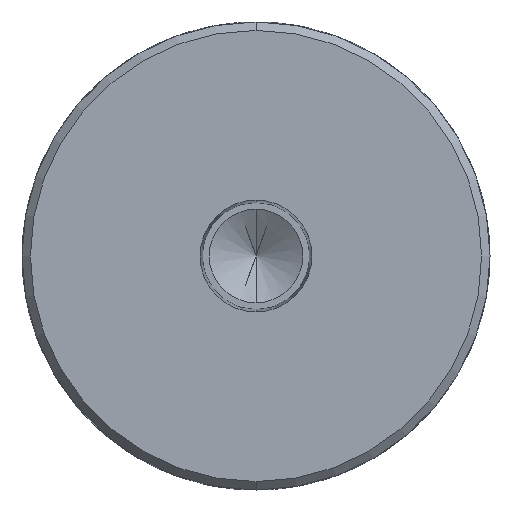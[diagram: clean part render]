
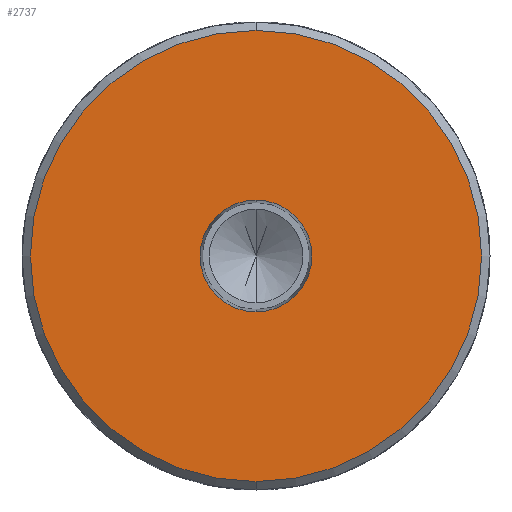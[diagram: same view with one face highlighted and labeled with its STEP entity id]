
A CAD part, front view. The second image highlights one B-rep face of the part: STEP entity #2737.
In plain terms, the highlighted planar face has unit normal (0, -1, 0).
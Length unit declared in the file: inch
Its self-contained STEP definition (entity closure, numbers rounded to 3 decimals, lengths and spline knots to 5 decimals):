
#1234 = FACE_BOUND ( 'NONE', #2789, .T. ) ;
#1239 = FACE_OUTER_BOUND ( 'NONE', #2741, .T. ) ;
#1271 = DIRECTION ( 'NONE',  ( 0., 0., 1. ) ) ;
#1272 = DIRECTION ( 'NONE',  ( 0., -1., 0. ) ) ;
#1273 = CARTESIAN_POINT ( 'NONE',  ( 0., 0., 0. ) ) ;
#1274 = AXIS2_PLACEMENT_3D ( 'NONE', #1273, #1272, #1271 ) ;
#1275 = CIRCLE ( 'NONE', #1274, 1.663 ) ;
#1276 = DIRECTION ( 'NONE',  ( 0., 0., -1. ) ) ;
#1277 = DIRECTION ( 'NONE',  ( 0., -1., 0. ) ) ;
#1278 = CARTESIAN_POINT ( 'NONE',  ( 0., 0., 0. ) ) ;
#1279 = AXIS2_PLACEMENT_3D ( 'NONE', #1278, #1277, #1276 ) ;
#1280 = CIRCLE ( 'NONE', #1279, 0.41248 ) ;
#1299 = DIRECTION ( 'NONE',  ( 0., 0., 1. ) ) ;
#1300 = DIRECTION ( 'NONE',  ( 0., 1., 0. ) ) ;
#1301 = CARTESIAN_POINT ( 'NONE',  ( 0., 0., 0. ) ) ;
#1302 = AXIS2_PLACEMENT_3D ( 'NONE', #1301, #1300, #1299 ) ;
#1303 = PLANE ( 'NONE',  #1302 ) ;
#2737 = ADVANCED_FACE ( 'NONE', ( #1234, #1239 ), #1303, .F. ) ;
#2738 = ORIENTED_EDGE ( 'NONE', *, *, #2739, .F. ) ;
#2739 = EDGE_CURVE ( 'NONE', #3918, #3915, #1280, .T. ) ;
#2740 = ORIENTED_EDGE ( 'NONE', *, *, #3917, .F. ) ;
#2741 = EDGE_LOOP ( 'NONE', ( #2742, #2744 ) ) ;
#2742 = ORIENTED_EDGE ( 'NONE', *, *, #2743, .T. ) ;
#2743 = EDGE_CURVE ( 'NONE', #4156, #4155, #1275, .T. ) ;
#2744 = ORIENTED_EDGE ( 'NONE', *, *, #4154, .T. ) ;
#2789 = EDGE_LOOP ( 'NONE', ( #2738, #2740 ) ) ;
#2954 = CARTESIAN_POINT ( 'NONE',  ( 0., 0., -0.41248 ) ) ;
#2955 = DIRECTION ( 'NONE',  ( 0., 0., -1. ) ) ;
#2956 = DIRECTION ( 'NONE',  ( 0., -1., 0. ) ) ;
#2957 = CARTESIAN_POINT ( 'NONE',  ( 0., 0., 0. ) ) ;
#2958 = AXIS2_PLACEMENT_3D ( 'NONE', #2957, #2956, #2955 ) ;
#2959 = CIRCLE ( 'NONE', #2958, 0.41248 ) ;
#2960 = CARTESIAN_POINT ( 'NONE',  ( 0., 0., 0.41248 ) ) ;
#3253 = CARTESIAN_POINT ( 'NONE',  ( 0., 0., 1.663 ) ) ;
#3254 = CARTESIAN_POINT ( 'NONE',  ( 0., 0., -1.663 ) ) ;
#3255 = DIRECTION ( 'NONE',  ( 0., 0., 1. ) ) ;
#3256 = DIRECTION ( 'NONE',  ( 0., -1., 0. ) ) ;
#3257 = CARTESIAN_POINT ( 'NONE',  ( 0., 0., 0. ) ) ;
#3258 = AXIS2_PLACEMENT_3D ( 'NONE', #3257, #3256, #3255 ) ;
#3259 = CIRCLE ( 'NONE', #3258, 1.663 ) ;
#3915 = VERTEX_POINT ( 'NONE', #2960 ) ;
#3917 = EDGE_CURVE ( 'NONE', #3915, #3918, #2959, .T. ) ;
#3918 = VERTEX_POINT ( 'NONE', #2954 ) ;
#4154 = EDGE_CURVE ( 'NONE', #4155, #4156, #3259, .T. ) ;
#4155 = VERTEX_POINT ( 'NONE', #3254 ) ;
#4156 = VERTEX_POINT ( 'NONE', #3253 ) ;
